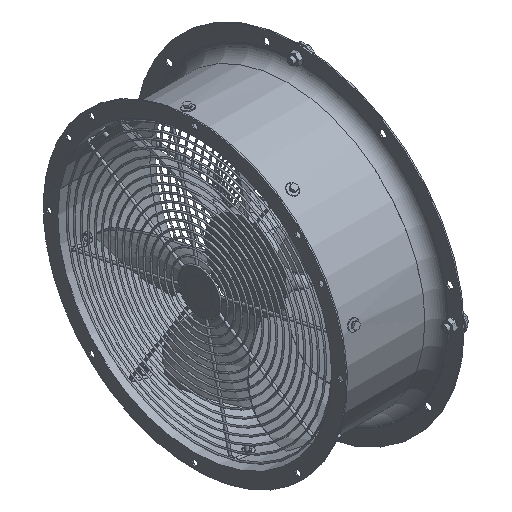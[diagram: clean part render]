
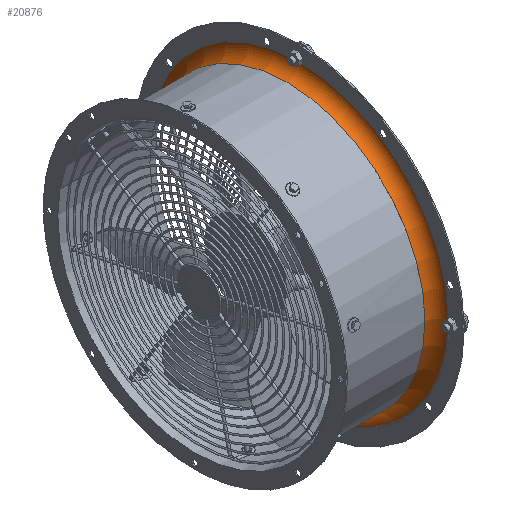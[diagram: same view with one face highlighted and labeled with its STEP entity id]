
A CAD part, isometric view. The second image highlights one B-rep face of the part: STEP entity #20876.
In plain terms, the highlighted toroidal (fillet/blend) face has major radius 257 mm and minor radius 20 mm.
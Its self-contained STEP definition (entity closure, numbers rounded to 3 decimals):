
#861 = DIRECTION ( 'NONE',  ( 0., 0., -1. ) ) ;
#1316 = EDGE_CURVE ( 'NONE', #7122, #14610, #21492, .T. ) ;
#1932 = VERTEX_POINT ( 'NONE', #4446 ) ;
#3648 = CIRCLE ( 'NONE', #36907, 20. ) ;
#4446 = CARTESIAN_POINT ( 'NONE',  ( 158., 233.327, 41.562 ) ) ;
#5552 = CARTESIAN_POINT ( 'NONE',  ( 158., 253.096, 44.628 ) ) ;
#5657 = CARTESIAN_POINT ( 'NONE',  ( 158., 253.017, 45.069 ) ) ;
#6072 = DIRECTION ( 'NONE',  ( 0., 0.175, -0.985 ) ) ;
#7122 = VERTEX_POINT ( 'NONE', #19600 ) ;
#7399 = DIRECTION ( 'NONE',  ( 1., 0., 0. ) ) ;
#9752 = CIRCLE ( 'NONE', #29872, 20. ) ;
#10305 = DIRECTION ( 'NONE',  ( 1., 0., 0. ) ) ;
#13734 = CARTESIAN_POINT ( 'NONE',  ( 158., 0., 0. ) ) ;
#14610 = VERTEX_POINT ( 'NONE', #19786 ) ;
#17584 = DIRECTION ( 'NONE',  ( 0., 0.174, -0.985 ) ) ;
#19600 = CARTESIAN_POINT ( 'NONE',  ( 178., 253.017, 45.069 ) ) ;
#19786 = CARTESIAN_POINT ( 'NONE',  ( 178., 253.096, 44.628 ) ) ;
#20683 = VERTEX_POINT ( 'NONE', #25493 ) ;
#20876 = ADVANCED_FACE ( 'NONE', ( #35983 ), #22901, .F. ) ;
#21270 = ORIENTED_EDGE ( 'NONE', *, *, #35861, .F. ) ;
#21492 = CIRCLE ( 'NONE', #37761, 257. ) ;
#22883 = CARTESIAN_POINT ( 'NONE',  ( 178., 0., 0. ) ) ;
#22901 = TOROIDAL_SURFACE ( 'NONE', #25485, 257., 20. ) ;
#23962 = DIRECTION ( 'NONE',  ( 0., 0., -1. ) ) ;
#25379 = EDGE_LOOP ( 'NONE', ( #30353, #34238, #40312, #21270 ) ) ;
#25485 = AXIS2_PLACEMENT_3D ( 'NONE', #27202, #27011, #23962 ) ;
#25493 = CARTESIAN_POINT ( 'NONE',  ( 158., 233.399, 41.155 ) ) ;
#27011 = DIRECTION ( 'NONE',  ( 1., 0., 0. ) ) ;
#27202 = CARTESIAN_POINT ( 'NONE',  ( 158., 0., 0. ) ) ;
#27388 = EDGE_CURVE ( 'NONE', #7122, #1932, #3648, .T. ) ;
#28290 = DIRECTION ( 'NONE',  ( 1., 0., 0. ) ) ;
#29872 = AXIS2_PLACEMENT_3D ( 'NONE', #5552, #17584, #33304 ) ;
#30353 = ORIENTED_EDGE ( 'NONE', *, *, #1316, .F. ) ;
#31318 = EDGE_CURVE ( 'NONE', #1932, #20683, #33467, .T. ) ;
#33304 = DIRECTION ( 'NONE',  ( 1., 0., 0. ) ) ;
#33467 = CIRCLE ( 'NONE', #39948, 237. ) ;
#34238 = ORIENTED_EDGE ( 'NONE', *, *, #27388, .T. ) ;
#35861 = EDGE_CURVE ( 'NONE', #14610, #20683, #9752, .T. ) ;
#35983 = FACE_OUTER_BOUND ( 'NONE', #25379, .T. ) ;
#36907 = AXIS2_PLACEMENT_3D ( 'NONE', #5657, #6072, #28290 ) ;
#37761 = AXIS2_PLACEMENT_3D ( 'NONE', #22883, #7399, #861 ) ;
#38810 = DIRECTION ( 'NONE',  ( 0., 0., -1. ) ) ;
#39948 = AXIS2_PLACEMENT_3D ( 'NONE', #13734, #10305, #38810 ) ;
#40312 = ORIENTED_EDGE ( 'NONE', *, *, #31318, .T. ) ;
